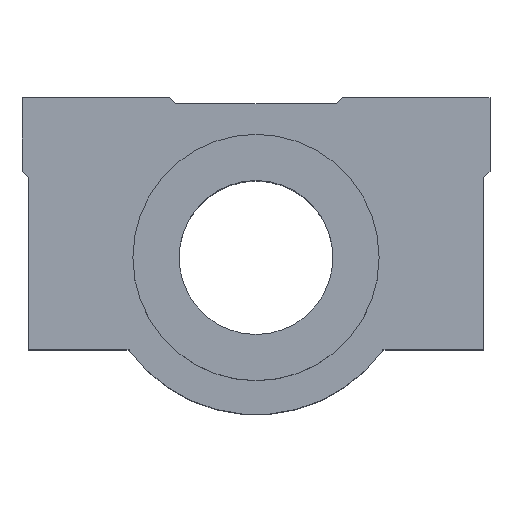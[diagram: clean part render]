
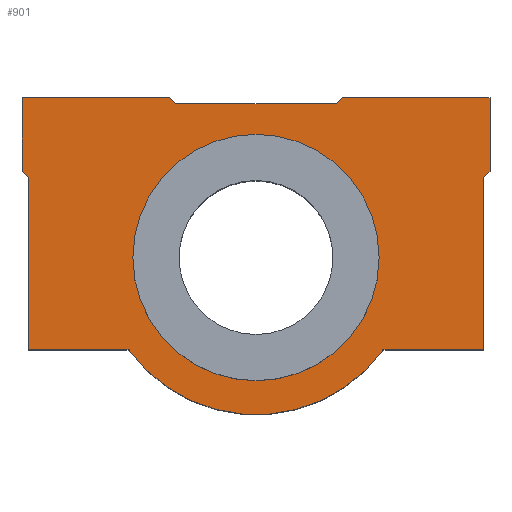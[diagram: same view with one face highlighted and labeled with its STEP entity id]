
A CAD part, top view. The second image highlights one B-rep face of the part: STEP entity #901.
In plain terms, the highlighted planar face has unit normal (0, 0, 1).
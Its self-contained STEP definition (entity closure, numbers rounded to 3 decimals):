
#133=CARTESIAN_POINT('',(-20.709,4.198,49.7));
#134=VERTEX_POINT('',#133);
#143=CARTESIAN_POINT('',(19.291,4.198,49.7));
#144=VERTEX_POINT('',#143);
#145=CARTESIAN_POINT('',(-0.709,4.198,49.7));
#146=DIRECTION('',(0.0,0.0,1.0));
#147=DIRECTION('',(-1.0,0.0,0.0));
#148=AXIS2_PLACEMENT_3D('',#145,#146,#147);
#149=CIRCLE('',#148,20.0);
#150=EDGE_CURVE('',#134,#144,#149,.T.);
#522=CARTESIAN_POINT('',(37.291,18.198,49.7));
#523=VERTEX_POINT('',#522);
#524=CARTESIAN_POINT('',(36.291,17.198,49.7));
#525=VERTEX_POINT('',#524);
#526=CARTESIAN_POINT('',(37.291,18.198,49.7));
#527=DIRECTION('',(-0.707,-0.707,0.0));
#528=VECTOR('',#527,1.414);
#529=LINE('',#526,#528);
#530=EDGE_CURVE('',#523,#525,#529,.T.);
#553=CARTESIAN_POINT('',(36.291,-10.802,49.7));
#554=VERTEX_POINT('',#553);
#555=CARTESIAN_POINT('',(36.291,17.198,49.7));
#556=DIRECTION('',(0.0,-1.0,0.0));
#557=VECTOR('',#556,28.);
#558=LINE('',#555,#557);
#559=EDGE_CURVE('',#525,#554,#558,.T.);
#577=CARTESIAN_POINT('',(19.913,-10.802,49.7));
#578=VERTEX_POINT('',#577);
#579=CARTESIAN_POINT('',(36.291,-10.802,49.7));
#580=DIRECTION('',(-1.0,0.0,0.0));
#581=VECTOR('',#580,16.378);
#582=LINE('',#579,#581);
#583=EDGE_CURVE('',#554,#578,#582,.T.);
#605=CARTESIAN_POINT('',(-21.33,-10.802,49.7));
#606=VERTEX_POINT('',#605);
#607=CARTESIAN_POINT('',(-0.709,4.198,49.7));
#608=DIRECTION('',(0.0,0.0,-1.0));
#609=DIRECTION('',(0.809,0.588,0.0));
#610=AXIS2_PLACEMENT_3D('',#607,#608,#609);
#611=CIRCLE('',#610,25.5);
#612=EDGE_CURVE('',#578,#606,#611,.T.);
#630=CARTESIAN_POINT('',(-37.709,-10.802,49.7));
#631=VERTEX_POINT('',#630);
#632=CARTESIAN_POINT('',(-21.33,-10.802,49.7));
#633=DIRECTION('',(-1.0,0.0,0.0));
#634=VECTOR('',#633,16.378);
#635=LINE('',#632,#634);
#636=EDGE_CURVE('',#606,#631,#635,.T.);
#658=CARTESIAN_POINT('',(-37.709,17.198,49.7));
#659=VERTEX_POINT('',#658);
#660=CARTESIAN_POINT('',(-37.709,-10.802,49.7));
#661=DIRECTION('',(0.0,1.0,0.0));
#662=VECTOR('',#661,28.);
#663=LINE('',#660,#662);
#664=EDGE_CURVE('',#631,#659,#663,.T.);
#682=CARTESIAN_POINT('',(-38.709,18.198,49.7));
#683=VERTEX_POINT('',#682);
#684=CARTESIAN_POINT('',(-37.709,17.198,49.7));
#685=DIRECTION('',(-0.707,0.707,0.0));
#686=VECTOR('',#685,1.414);
#687=LINE('',#684,#686);
#688=EDGE_CURVE('',#659,#683,#687,.T.);
#706=CARTESIAN_POINT('',(-38.709,30.198,49.7));
#707=VERTEX_POINT('',#706);
#708=CARTESIAN_POINT('',(-38.709,18.198,49.7));
#709=DIRECTION('',(0.0,1.0,0.0));
#710=VECTOR('',#709,12.);
#711=LINE('',#708,#710);
#712=EDGE_CURVE('',#683,#707,#711,.T.);
#730=CARTESIAN_POINT('',(-14.709,30.198,49.7));
#731=VERTEX_POINT('',#730);
#732=CARTESIAN_POINT('',(-38.709,30.198,49.7));
#733=DIRECTION('',(1.0,0.0,0.0));
#734=VECTOR('',#733,24.);
#735=LINE('',#732,#734);
#736=EDGE_CURVE('',#707,#731,#735,.T.);
#758=CARTESIAN_POINT('',(-13.709,29.198,49.7));
#759=VERTEX_POINT('',#758);
#760=CARTESIAN_POINT('',(-14.709,30.198,49.7));
#761=DIRECTION('',(0.707,-0.707,0.0));
#762=VECTOR('',#761,1.414);
#763=LINE('',#760,#762);
#764=EDGE_CURVE('',#731,#759,#763,.T.);
#782=CARTESIAN_POINT('',(12.291,29.198,49.7));
#783=VERTEX_POINT('',#782);
#784=CARTESIAN_POINT('',(-13.709,29.198,49.7));
#785=DIRECTION('',(1.0,0.0,0.0));
#786=VECTOR('',#785,26.);
#787=LINE('',#784,#786);
#788=EDGE_CURVE('',#759,#783,#787,.T.);
#806=CARTESIAN_POINT('',(13.291,30.198,49.7));
#807=VERTEX_POINT('',#806);
#808=CARTESIAN_POINT('',(12.291,29.198,49.7));
#809=DIRECTION('',(0.707,0.707,0.0));
#810=VECTOR('',#809,1.414);
#811=LINE('',#808,#810);
#812=EDGE_CURVE('',#783,#807,#811,.T.);
#830=CARTESIAN_POINT('',(37.291,30.198,49.7));
#831=VERTEX_POINT('',#830);
#832=CARTESIAN_POINT('',(13.291,30.198,49.7));
#833=DIRECTION('',(1.0,0.0,0.0));
#834=VECTOR('',#833,24.);
#835=LINE('',#832,#834);
#836=EDGE_CURVE('',#807,#831,#835,.T.);
#858=CARTESIAN_POINT('',(37.291,30.198,49.7));
#859=DIRECTION('',(0.0,-1.0,0.0));
#860=VECTOR('',#859,12.);
#861=LINE('',#858,#860);
#862=EDGE_CURVE('',#831,#523,#861,.T.);
#870=CARTESIAN_POINT('',(-0.709,8.034,49.7));
#871=DIRECTION('',(0.0,0.0,1.0));
#872=DIRECTION('',(1.0,0.0,0.0));
#873=AXIS2_PLACEMENT_3D('',#870,#871,#872);
#874=PLANE('',#873);
#875=ORIENTED_EDGE('',*,*,#530,.F.);
#876=ORIENTED_EDGE('',*,*,#862,.F.);
#877=ORIENTED_EDGE('',*,*,#836,.F.);
#878=ORIENTED_EDGE('',*,*,#812,.F.);
#879=ORIENTED_EDGE('',*,*,#788,.F.);
#880=ORIENTED_EDGE('',*,*,#764,.F.);
#881=ORIENTED_EDGE('',*,*,#736,.F.);
#882=ORIENTED_EDGE('',*,*,#712,.F.);
#883=ORIENTED_EDGE('',*,*,#688,.F.);
#884=ORIENTED_EDGE('',*,*,#664,.F.);
#885=ORIENTED_EDGE('',*,*,#636,.F.);
#886=ORIENTED_EDGE('',*,*,#612,.F.);
#887=ORIENTED_EDGE('',*,*,#583,.F.);
#888=ORIENTED_EDGE('',*,*,#559,.F.);
#889=EDGE_LOOP('',(#875,#876,#877,#878,#879,#880,#881,#882,#883,#884,#885,#886,#887,#888));
#890=FACE_OUTER_BOUND('',#889,.T.);
#891=CARTESIAN_POINT('',(-0.709,4.198,49.7));
#892=DIRECTION('',(0.0,0.0,1.0));
#893=DIRECTION('',(-1.0,0.0,0.0));
#894=AXIS2_PLACEMENT_3D('',#891,#892,#893);
#895=CIRCLE('',#894,20.0);
#896=EDGE_CURVE('',#144,#134,#895,.T.);
#897=ORIENTED_EDGE('',*,*,#896,.F.);
#898=ORIENTED_EDGE('',*,*,#150,.F.);
#899=EDGE_LOOP('',(#897,#898));
#900=FACE_BOUND('',#899,.T.);
#901=ADVANCED_FACE('',(#890,#900),#874,.T.);
